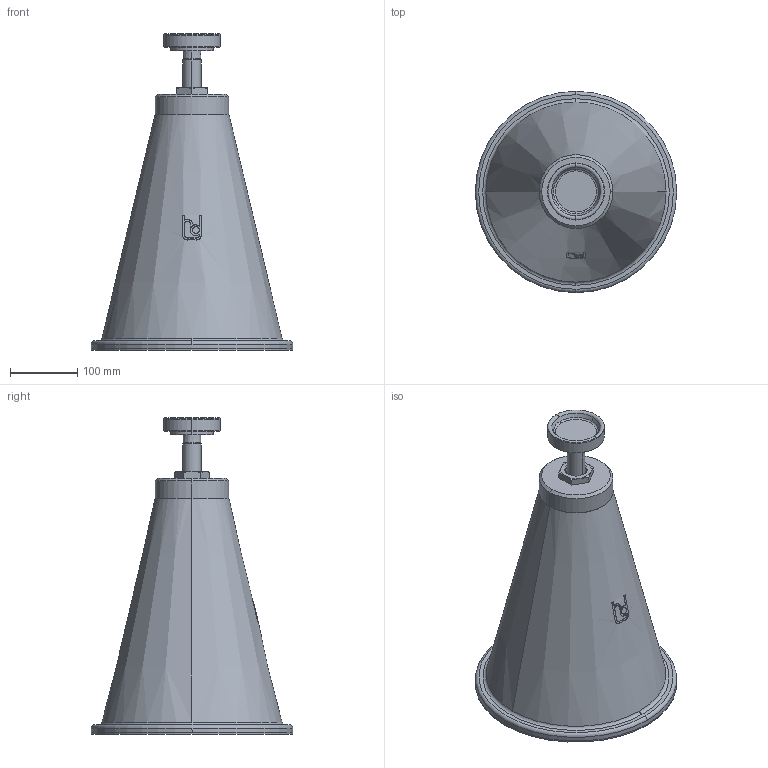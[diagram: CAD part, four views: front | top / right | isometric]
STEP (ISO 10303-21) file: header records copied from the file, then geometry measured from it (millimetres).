
FILE_DESCRIPTION(('STEP AP214'),'1');
FILE_NAME('RSRFB-05-V0.stp','2018-06-26T12:37:59',(' '),(' '),'Spatial InterOp 3D',' ',' ');
FILE_SCHEMA(('automotive_design'));
Length unit declared in the file: millimetre
Products named in the file (6): 1; 2; 3; 4; 5; 6
Bounding box: 300 x 300 x 471.1 mm (x, y, z)
Volume: 11647023 mm3; surface area: 535160.7 mm2
Topology: 6 solids, 7 shells, 122 faces, 289 edges, 185 vertices
Faces by surface type: plane 42, cylinder 37, cone 29, torus 14
Entity records: 5010 total; most frequent: CARTESIAN_POINT 1049, DIRECTION 637, ORIENTED_EDGE 578, EDGE_CURVE 289, AXIS2_PLACEMENT_3D 261, VERTEX_POINT 185, EDGE_LOOP 130, STYLED_ITEM 128
